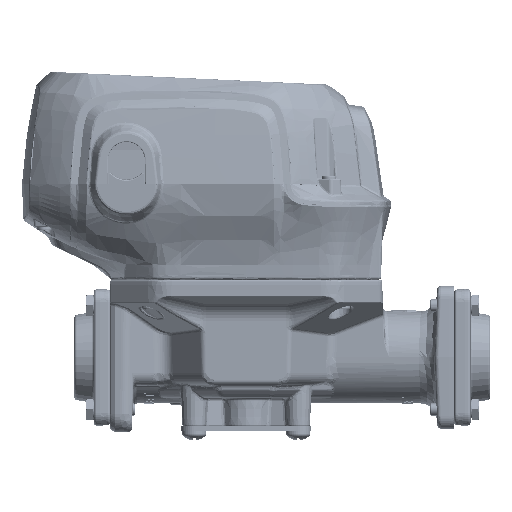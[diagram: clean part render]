
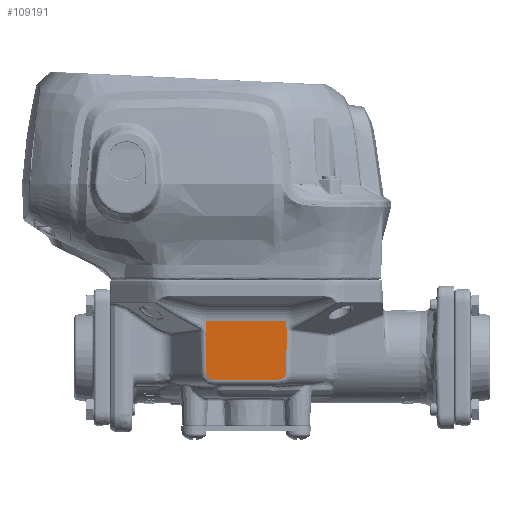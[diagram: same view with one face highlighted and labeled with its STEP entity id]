
A CAD part, left-side view. The second image highlights one B-rep face of the part: STEP entity #109191.
In plain terms, the highlighted planar face has unit normal (-0.999, 0, -0.052).
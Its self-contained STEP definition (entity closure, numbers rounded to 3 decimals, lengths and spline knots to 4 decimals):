
#850=ELLIPSE('',#117922,0.1567,0.125);
#851=ELLIPSE('',#117923,0.1567,0.125);
#3198=B_SPLINE_CURVE_WITH_KNOTS('',3,(#216241,#216242,#216243,#216244,#216245,
#216246),.UNSPECIFIED.,.F.,.F.,(4,2,4),(-0.0445,-0.0431,
0.),.UNSPECIFIED.);
#14586=LINE('',#216231,#18498);
#14587=LINE('',#216235,#18499);
#14588=LINE('',#216239,#18500);
#14589=LINE('',#216248,#18501);
#14590=LINE('',#216250,#18502);
#14591=LINE('',#216251,#18503);
#14592=LINE('',#216253,#18504);
#18498=VECTOR('',#134925,0.3937);
#18499=VECTOR('',#134928,0.3937);
#18500=VECTOR('',#134931,0.3937);
#18501=VECTOR('',#134932,0.3937);
#18502=VECTOR('',#134933,0.3937);
#18503=VECTOR('',#134934,0.3937);
#18504=VECTOR('',#134935,0.3937);
#24217=FACE_OUTER_BOUND('',#30926,.T.);
#30926=EDGE_LOOP('',(#79896,#79897,#79898,#79899,#79900,#79901,#79902,#79903,
#79904,#79905));
#42918=VERTEX_POINT('',#201718);
#43794=VERTEX_POINT('',#216227);
#43795=VERTEX_POINT('',#216233);
#43796=VERTEX_POINT('',#216234);
#43797=VERTEX_POINT('',#216236);
#43798=VERTEX_POINT('',#216238);
#43799=VERTEX_POINT('',#216240);
#43800=VERTEX_POINT('',#216247);
#43801=VERTEX_POINT('',#216249);
#43802=VERTEX_POINT('',#216252);
#56750=EDGE_CURVE('',#43794,#42918,#14586,.T.);
#56751=EDGE_CURVE('',#43795,#43796,#14587,.T.);
#56752=EDGE_CURVE('',#43797,#43795,#850,.T.);
#56753=EDGE_CURVE('',#43798,#43797,#14588,.T.);
#56754=EDGE_CURVE('',#43799,#43798,#3198,.T.);
#56755=EDGE_CURVE('',#43800,#43799,#14589,.T.);
#56756=EDGE_CURVE('',#43801,#43800,#14590,.T.);
#56757=EDGE_CURVE('',#43801,#42918,#14591,.T.);
#56758=EDGE_CURVE('',#43802,#43794,#14592,.T.);
#56759=EDGE_CURVE('',#43796,#43802,#851,.T.);
#79896=ORIENTED_EDGE('',*,*,#56751,.F.);
#79897=ORIENTED_EDGE('',*,*,#56752,.F.);
#79898=ORIENTED_EDGE('',*,*,#56753,.F.);
#79899=ORIENTED_EDGE('',*,*,#56754,.F.);
#79900=ORIENTED_EDGE('',*,*,#56755,.F.);
#79901=ORIENTED_EDGE('',*,*,#56756,.F.);
#79902=ORIENTED_EDGE('',*,*,#56757,.T.);
#79903=ORIENTED_EDGE('',*,*,#56750,.F.);
#79904=ORIENTED_EDGE('',*,*,#56758,.F.);
#79905=ORIENTED_EDGE('',*,*,#56759,.F.);
#98934=PLANE('',#117921);
#109191=ADVANCED_FACE('',(#24217),#98934,.F.);
#117921=AXIS2_PLACEMENT_3D('',#216232,#134926,#134927);
#117922=AXIS2_PLACEMENT_3D('',#216237,#134929,#134930);
#117923=AXIS2_PLACEMENT_3D('',#216254,#134936,#134937);
#134925=DIRECTION('',(0.019,-0.934,-0.358));
#134926=DIRECTION('center_axis',(0.999,0.,
0.052));
#134927=DIRECTION('ref_axis',(0.,1.,0.));
#134928=DIRECTION('',(0.,1.,0.));
#134929=DIRECTION('center_axis',(0.999,0.,
0.052));
#134930=DIRECTION('ref_axis',(0.004,-0.998,-0.069));
#134931=DIRECTION('',(0.052,0.026,-0.998));
#134932=DIRECTION('',(0.052,0.026,-0.998));
#134933=DIRECTION('',(0.,-1.,0.));
#134934=DIRECTION('',(0.052,-0.026,-0.998));
#134935=DIRECTION('',(-0.052,0.026,0.998));
#134936=DIRECTION('center_axis',(0.999,0.,
0.052));
#134937=DIRECTION('ref_axis',(0.004,0.998,-0.069));
#201718=CARTESIAN_POINT('',(-1.9381,0.767,-1.0435));
#216227=CARTESIAN_POINT('',(-1.9384,0.7844,-1.0368));
#216231=CARTESIAN_POINT('',(-1.9393,0.8266,-1.0206));
#216232=CARTESIAN_POINT('Origin',(-1.886,0.,-2.0374));
#216233=CARTESIAN_POINT('',(-1.8922,-0.6128,-1.9189));
#216234=CARTESIAN_POINT('',(-1.8922,0.6128,-1.9189));
#216235=CARTESIAN_POINT('',(-1.8922,0.,-1.9189));
#216236=CARTESIAN_POINT('',(-1.8984,-0.7645,-1.8005));
#216237=CARTESIAN_POINT('Origin',(-1.8988,-0.6079,
-1.7939));
#216238=CARTESIAN_POINT('',(-1.9438,-0.7871,-0.9336));
#216239=CARTESIAN_POINT('',(-1.8855,-0.758,-2.0465));
#216240=CARTESIAN_POINT('',(-1.944,-0.7699,-0.9302));
#216241=CARTESIAN_POINT('Ctrl Pts',(-1.944,-0.7699,
-0.9302));
#216242=CARTESIAN_POINT('Ctrl Pts',(-1.944,-0.7701,
-0.9302));
#216243=CARTESIAN_POINT('Ctrl Pts',(-1.944,-0.7703,
-0.9303));
#216244=CARTESIAN_POINT('Ctrl Pts',(-1.944,-0.776,
-0.9315));
#216245=CARTESIAN_POINT('Ctrl Pts',(-1.9439,-0.7815,
-0.9326));
#216246=CARTESIAN_POINT('Ctrl Pts',(-1.9438,-0.7871,
-0.9336));
#216247=CARTESIAN_POINT('',(-1.9515,-0.7736,-0.7884));
#216248=CARTESIAN_POINT('',(-1.9384,-0.7671,-1.0383));
#216249=CARTESIAN_POINT('',(-1.9515,0.7736,-0.7884));
#216250=CARTESIAN_POINT('',(-1.9515,0.,-0.7884));
#216251=CARTESIAN_POINT('',(-1.9384,0.7671,-1.0383));
#216252=CARTESIAN_POINT('',(-1.8984,0.7645,-1.8005));
#216253=CARTESIAN_POINT('',(-1.8842,0.7574,-2.0709));
#216254=CARTESIAN_POINT('Origin',(-1.8988,0.6079,-1.7939));
